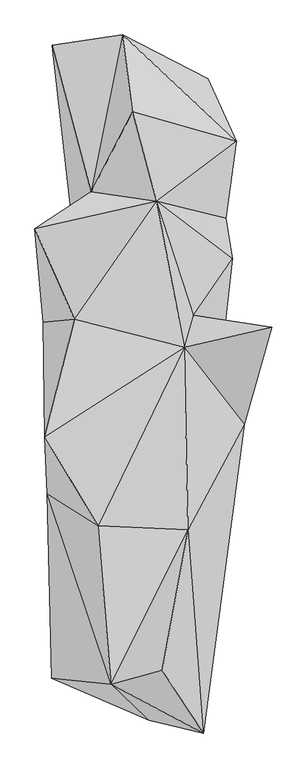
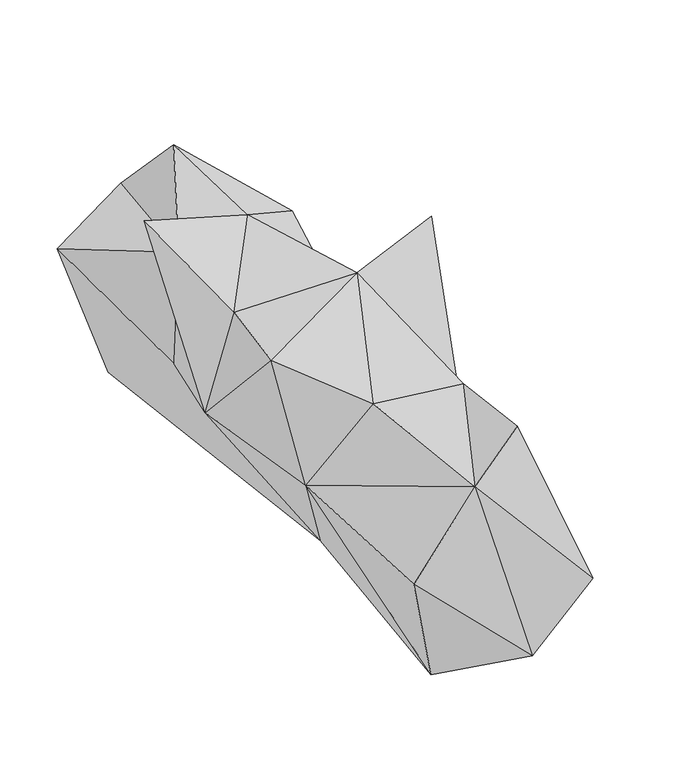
"""IFC4 building model written with IfcOpenShell, lengths in millimetres: geographic element geometry, Enscape AssetDefinition - Potted Plant 250 Snake Plant : Enscape AssetDefinition - Potted Plant 250 Snake Plant."""

from ifc_helpers import new_model, si_unit, origin, place, context, project, spatial, triangles, source, transform, mapped, element, save


def geographic_element_266ae1ca(model_context):
    return source(origin(), model_context, "Body", "Tessellation", [
        triangles([(-18.7389997, 678.2030073, 548.1740255), (-42.5790008, 864.9980009, 342.416999), (164.4899961, 758.2610567, 70.5249967), (34.4010002, 664.2960073, 0.0), (-118.9519962, 484.2390109, 418.9049901), (208.3179894, 419.9850114, 287.7880115), (233.9440052, 607.4760017, 329.2550117), (171.4230031, 450.5569825, 100.5880008), (89.1739991, -87.028, 0.0), (40.036001, 461.1149863, 475.6849909), (129.5379961, 185.7470016, 347.9169903), (224.0249886, 321.8309735, 284.7070041), (185.2360044, -27.7759981, 178.0210015), (319.7760118, 156.1439939, 558.9749651), (252.9540004, -78.701001, 257.2210183), (116.4600062, -334.7850157, 486.9889884), (153.2379939, -827.7930044, 262.6659802), (170.3679985, -618.0510103, 0.0), (21.1219983, -796.9700312, 87.2039977), (53.5550023, -675.5980064, 604.3999904), (-102.4340001, -325.3630254, 506.3440207), (-214.7330049, -694.8459595, 295.7040072), (-70.6629969, -709.0169695, 510.3840357), (-96.511996, -88.1699997, 0.0), (-4.0870001, -603.7600222, 0.0), (-164.097996, -681.0680214, 32.2999997), (-225.1830029, -247.7750105, 288.2759904), (107.1519988, 107.7670049, 513.6230095), (-231.1500079, -109.6180002, 534.9390049), (-159.3050109, 175.0460014, 463.2390209), (-235.232989, 168.8600055, 229.7949852), (-166.17901, 422.5829996, 181.1970068), (-255.589995, 394.8099855, 603.0079605), (-175.595005, 688.086997, 0.0), (-213.781991, 840.4109842, 245.3009973)], [[4, 9, 24], [34, 4, 24], [4, 34, 35], [35, 34, 32], [24, 32, 34], [5, 35, 32], [5, 33, 10], [28, 10, 30], [33, 30, 10], [31, 33, 5], [24, 31, 32], [31, 5, 32], [30, 33, 31], [29, 30, 31], [28, 30, 29], [28, 29, 21], [27, 21, 29], [27, 29, 31], [27, 31, 24], [27, 26, 22], [27, 24, 26], [24, 25, 26], [24, 9, 25], [22, 26, 19], [26, 25, 19], [21, 27, 23], [22, 19, 23], [27, 22, 23], [16, 23, 20], [28, 21, 16], [16, 21, 23], [17, 16, 20], [17, 23, 19], [20, 23, 17], [18, 25, 9], [19, 25, 18], [17, 19, 18], [18, 15, 17], [15, 28, 16], [15, 16, 17], [28, 15, 14], [9, 15, 18], [15, 9, 13], [15, 13, 11], [14, 15, 11], [10, 28, 11], [11, 28, 14], [12, 11, 13], [12, 13, 9], [12, 10, 11], [6, 10, 12], [4, 8, 9], [6, 12, 8], [8, 12, 9], [8, 4, 3], [7, 10, 6], [7, 6, 8], [8, 3, 7], [1, 10, 7], [5, 10, 1], [2, 7, 3], [4, 35, 2], [5, 2, 35], [5, 1, 2], [2, 3, 4], [2, 1, 7]]),
    ])


if __name__ == "__main__":
    model = new_model("IFC4")
    model_context = context("Model", 3, world=origin())
    ifc_project = project(units=[si_unit("LENGTHUNIT", "METRE", prefix="MILLI")], contexts=[model_context])
    site = spatial("IfcSite", under=ifc_project)
    building = spatial("IfcBuilding", under=site)
    placement = place(None, origin())
    geographic_element_shape = geographic_element_266ae1ca(model_context)
    element("IfcGeographicElement", 1, ObjectType="Enscape AssetDefinition - Potted Plant 250 Snake Plant : Enscape AssetDefinition - Potted Plant 250 Snake Plant", at=placement, inside=building, context=model_context, shape_type="MappedRepresentation", body=[
        mapped(geographic_element_shape, transform((0.0, 0.0, 0.0), x_axis=(1.0, 0.0, 0.0), y_axis=(0.0, 1.0, 0.0), z_axis=(0.0, 0.0, 1.0))),
    ])
    save(model, "model.ifc")
